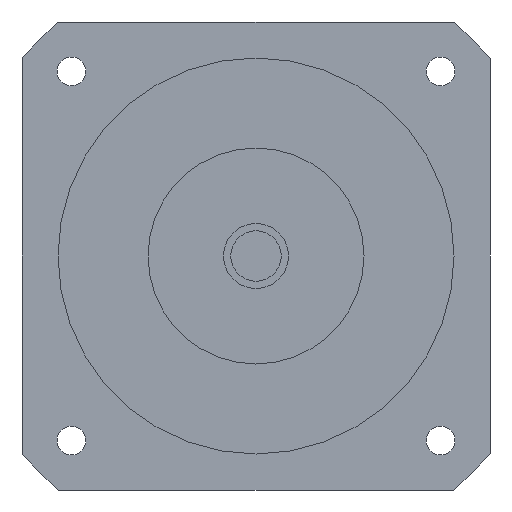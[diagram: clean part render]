
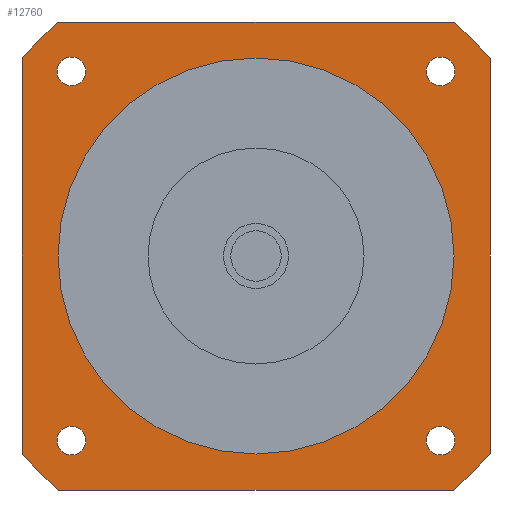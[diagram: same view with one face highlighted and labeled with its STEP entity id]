
A CAD part, left-side view. The second image highlights one B-rep face of the part: STEP entity #12760.
In plain terms, the highlighted planar face has unit normal (-1, 0, 0) as drawn and (0, 0, -1) by its records, which use the part's own axes.
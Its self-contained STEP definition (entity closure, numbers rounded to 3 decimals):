
#8780=CARTESIAN_POINT('',(65.,-54.772,-51.4));
#8790=VERTEX_POINT('',#8780);
#8840=CARTESIAN_POINT('',(0.,0.,
-51.4));
#8850=DIRECTION('',(0.,0.,-1.));
#8860=DIRECTION('',(1.,0.,0.));
#8870=AXIS2_PLACEMENT_3D('',#8840,#8850,#8860);
#8880=CIRCLE('',#8870,85.);
#8890=CARTESIAN_POINT('',(54.772,-65.,-51.4));
#8900=VERTEX_POINT('',#8890);
#8910=EDGE_CURVE('',#8790,#8900,#8880,.T.);
#11190=CARTESIAN_POINT('',(-51.265,-47.265,-51.4));
#11200=VERTEX_POINT('',#11190);
#11230=CARTESIAN_POINT('',(-51.265,-51.265,-51.4));
#11240=DIRECTION('',(0.,0.,-1.));
#11250=DIRECTION('',(0.,-1.,0.));
#11260=AXIS2_PLACEMENT_3D('',#11230,#11240,#11250);
#11270=CIRCLE('',#11260,4.);
#11280=CARTESIAN_POINT('',(-51.265,-55.265,-51.4));
#11290=VERTEX_POINT('',#11280);
#11300=EDGE_CURVE('',#11290,#11200,#11270,.T.);
#11420=CARTESIAN_POINT('',(65.,65.,-51.4));
#11430=DIRECTION('',(0.,0.,-1.));
#11440=DIRECTION('',(1.,0.,0.));
#11450=AXIS2_PLACEMENT_3D('',#11420,#11430,#11440);
#11460=PLANE('',#11450);
#11470=ORIENTED_EDGE('',*,*,#11300,.F.);
#11480=EDGE_CURVE('',#11200,#11290,#11270,.T.);
#11490=ORIENTED_EDGE('',*,*,#11480,.F.);
#11500=EDGE_LOOP('',(#11490,#11470));
#11510=FACE_BOUND('',#11500,.T.);
#11520=CARTESIAN_POINT('',(-51.265,51.265,-51.4));
#11530=DIRECTION('',(0.,0.,-1.));
#11540=DIRECTION('',(-1.,0.,0.));
#11550=AXIS2_PLACEMENT_3D('',#11520,#11530,#11540);
#11560=CIRCLE('',#11550,4.);
#11570=CARTESIAN_POINT('',(-55.265,51.265,-51.4));
#11580=VERTEX_POINT('',#11570);
#11590=CARTESIAN_POINT('',(-47.265,51.265,-51.4));
#11600=VERTEX_POINT('',#11590);
#11610=EDGE_CURVE('',#11580,#11600,#11560,.T.);
#11620=ORIENTED_EDGE('',*,*,#11610,.F.);
#11630=EDGE_CURVE('',#11600,#11580,#11560,.T.);
#11640=ORIENTED_EDGE('',*,*,#11630,.F.);
#11650=EDGE_LOOP('',(#11640,#11620));
#11660=FACE_BOUND('',#11650,.T.);
#11670=CARTESIAN_POINT('',(51.265,51.265,-51.4));
#11680=DIRECTION('',(0.,0.,-1.));
#11690=DIRECTION('',(0.,1.,0.));
#11700=AXIS2_PLACEMENT_3D('',#11670,#11680,#11690);
#11710=CIRCLE('',#11700,4.);
#11720=CARTESIAN_POINT('',(51.265,55.265,-51.4));
#11730=VERTEX_POINT('',#11720);
#11740=CARTESIAN_POINT('',(51.265,47.265,-51.4));
#11750=VERTEX_POINT('',#11740);
#11760=EDGE_CURVE('',#11730,#11750,#11710,.T.);
#11770=ORIENTED_EDGE('',*,*,#11760,.F.);
#11780=EDGE_CURVE('',#11750,#11730,#11710,.T.);
#11790=ORIENTED_EDGE('',*,*,#11780,.F.);
#11800=EDGE_LOOP('',(#11790,#11770));
#11810=FACE_BOUND('',#11800,.T.);
#11820=CARTESIAN_POINT('',(0.,0.,
-51.4));
#11830=DIRECTION('',(0.,0.,1.));
#11840=DIRECTION('',(0.,1.,0.));
#11850=AXIS2_PLACEMENT_3D('',#11820,#11830,#11840);
#11860=CIRCLE('',#11850,55.);
#11870=CARTESIAN_POINT('',(-55.,0.,-51.4));
#11880=VERTEX_POINT('',#11870);
#11890=CARTESIAN_POINT('',(55.,0.,-51.4));
#11900=VERTEX_POINT('',#11890);
#11910=EDGE_CURVE('',#11880,#11900,#11860,.T.);
#11920=ORIENTED_EDGE('',*,*,#11910,.T.);
#11930=CARTESIAN_POINT('',(0.,55.,-51.4));
#11940=VERTEX_POINT('',#11930);
#11950=EDGE_CURVE('',#11940,#11880,#11860,.T.);
#11960=ORIENTED_EDGE('',*,*,#11950,.T.);
#11970=EDGE_CURVE('',#11900,#11940,#11860,.T.);
#11980=ORIENTED_EDGE('',*,*,#11970,.T.);
#11990=EDGE_LOOP('',(#11980,#11960,#11920));
#12000=FACE_BOUND('',#11990,.T.);
#12010=CARTESIAN_POINT('',(-65.,65.,-51.4));
#12020=DIRECTION('',(1.,0.,0.));
#12030=VECTOR('',#12020,1000.);
#12040=LINE('',#12010,#12030);
#12050=CARTESIAN_POINT('',(-54.772,65.,-51.4));
#12060=VERTEX_POINT('',#12050);
#12070=CARTESIAN_POINT('',(54.772,65.,-51.4));
#12080=VERTEX_POINT('',#12070);
#12090=EDGE_CURVE('',#12060,#12080,#12040,.T.);
#12100=ORIENTED_EDGE('',*,*,#12090,.T.);
#12110=CARTESIAN_POINT('',(0.,0.,
-51.4));
#12120=DIRECTION('',(0.,0.,-1.));
#12130=DIRECTION('',(1.,0.,0.));
#12140=AXIS2_PLACEMENT_3D('',#12110,#12120,#12130);
#12150=CIRCLE('',#12140,85.);
#12160=CARTESIAN_POINT('',(-65.,54.772,-51.4));
#12170=VERTEX_POINT('',#12160);
#12180=EDGE_CURVE('',#12170,#12060,#12150,.T.);
#12190=ORIENTED_EDGE('',*,*,#12180,.T.);
#12200=CARTESIAN_POINT('',(-65.,-65.,-51.4));
#12210=DIRECTION('',(0.,1.,0.));
#12220=VECTOR('',#12210,1000.);
#12230=LINE('',#12200,#12220);
#12240=CARTESIAN_POINT('',(-65.,-54.772,-51.4));
#12250=VERTEX_POINT('',#12240);
#12260=EDGE_CURVE('',#12250,#12170,#12230,.T.);
#12270=ORIENTED_EDGE('',*,*,#12260,.T.);
#12280=CARTESIAN_POINT('',(0.,0.,
-51.4));
#12290=DIRECTION('',(0.,0.,-1.));
#12300=DIRECTION('',(1.,0.,0.));
#12310=AXIS2_PLACEMENT_3D('',#12280,#12290,#12300);
#12320=CIRCLE('',#12310,85.);
#12330=CARTESIAN_POINT('',(-54.772,-65.,-51.4));
#12340=VERTEX_POINT('',#12330);
#12350=EDGE_CURVE('',#12340,#12250,#12320,.T.);
#12360=ORIENTED_EDGE('',*,*,#12350,.T.);
#12370=CARTESIAN_POINT('',(65.,-65.,-51.4));
#12380=DIRECTION('',(-1.,0.,0.));
#12390=VECTOR('',#12380,1000.);
#12400=LINE('',#12370,#12390);
#12410=EDGE_CURVE('',#8900,#12340,#12400,.T.);
#12420=ORIENTED_EDGE('',*,*,#12410,.T.);
#12430=ORIENTED_EDGE('',*,*,#8910,.T.);
#12440=CARTESIAN_POINT('',(65.,65.,-51.4));
#12450=DIRECTION('',(0.,-1.,0.));
#12460=VECTOR('',#12450,1000.);
#12470=LINE('',#12440,#12460);
#12480=CARTESIAN_POINT('',(65.,54.772,-51.4));
#12490=VERTEX_POINT('',#12480);
#12500=EDGE_CURVE('',#12490,#8790,#12470,.T.);
#12510=ORIENTED_EDGE('',*,*,#12500,.T.);
#12520=CARTESIAN_POINT('',(0.,0.,
-51.4));
#12530=DIRECTION('',(0.,0.,-1.));
#12540=DIRECTION('',(1.,0.,0.));
#12550=AXIS2_PLACEMENT_3D('',#12520,#12530,#12540);
#12560=CIRCLE('',#12550,85.);
#12570=EDGE_CURVE('',#12080,#12490,#12560,.T.);
#12580=ORIENTED_EDGE('',*,*,#12570,.T.);
#12590=EDGE_LOOP('',(#12580,#12510,#12430,#12420,#12360,#12270,#12190,
#12100));
#12600=FACE_OUTER_BOUND('',#12590,.T.);
#12610=CARTESIAN_POINT('',(51.265,-51.265,-51.4));
#12620=DIRECTION('',(0.,0.,-1.));
#12630=DIRECTION('',(1.,0.,0.));
#12640=AXIS2_PLACEMENT_3D('',#12610,#12620,#12630);
#12650=CIRCLE('',#12640,4.);
#12660=CARTESIAN_POINT('',(55.265,-51.265,-51.4));
#12670=VERTEX_POINT('',#12660);
#12680=CARTESIAN_POINT('',(47.265,-51.265,-51.4));
#12690=VERTEX_POINT('',#12680);
#12700=EDGE_CURVE('',#12670,#12690,#12650,.T.);
#12710=ORIENTED_EDGE('',*,*,#12700,.F.);
#12720=EDGE_CURVE('',#12690,#12670,#12650,.T.);
#12730=ORIENTED_EDGE('',*,*,#12720,.F.);
#12740=EDGE_LOOP('',(#12730,#12710));
#12750=FACE_BOUND('',#12740,.T.);
#12760=ADVANCED_FACE('',(#11510,#11660,#11810,#12000,#12600,#12750),
#11460,.T.);
